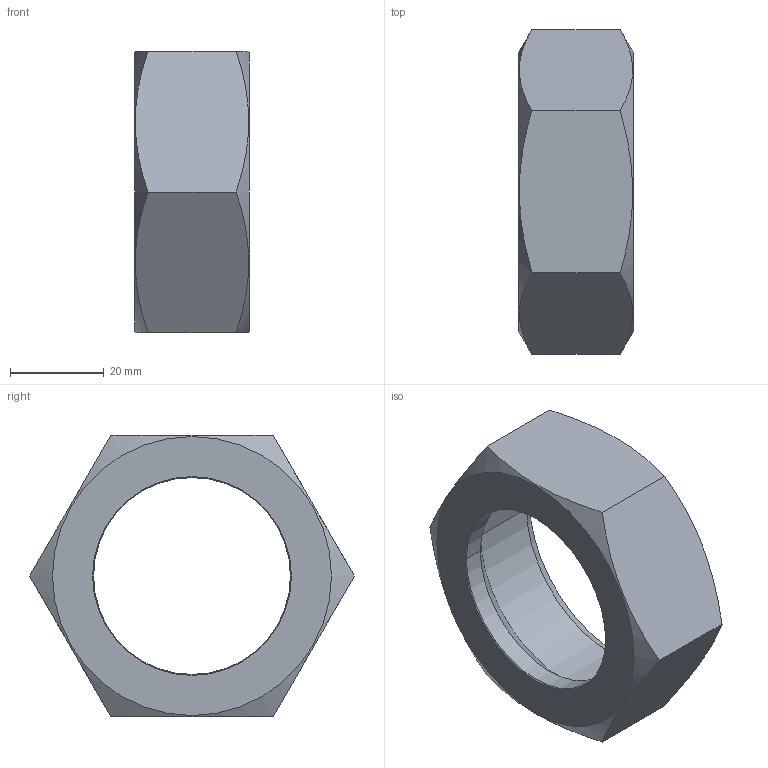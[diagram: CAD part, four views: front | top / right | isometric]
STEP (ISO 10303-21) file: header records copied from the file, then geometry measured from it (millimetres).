
FILE_DESCRIPTION((''),'2;1');
FILE_NAME('100213.stp','2006-03-06T15:11:00',('Dario Falcomer'),('CAST S.p.A.'),'AutoCAD STEP 2000i','AutoCAD 2000i',', , ');
FILE_SCHEMA(('CONFIG_CONTROL_DESIGN'));
Length unit declared in the file: millimetre
Products named in the file (2): 100213.0; CHIAVE_DADI#0
Assembly tree (1 placements, depth 2):
  100213.0
    CHIAVE_DADI#0
Bounding box: 24.5 x 69.28 x 60 mm (x, y, z)
Volume: 31177.1 mm3; surface area: 11416.5 mm2
Topology: 1 solids, 1 shells, 22 faces, 52 edges, 32 vertices
Faces by surface type: cone 10, plane 8, cylinder 4
Entity records: 725 total; most frequent: CARTESIAN_POINT 140, ORIENTED_EDGE 104, DIRECTION 100, EDGE_CURVE 52, AXIS2_PLACEMENT_3D 40, VERTEX_POINT 32, EDGE_LOOP 24, FACE_OUTER_BOUND 22
